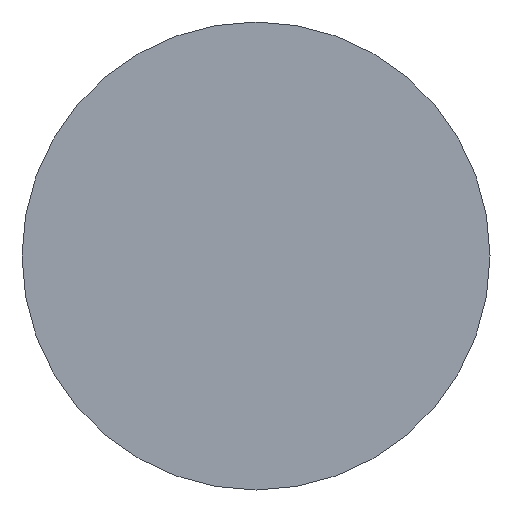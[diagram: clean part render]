
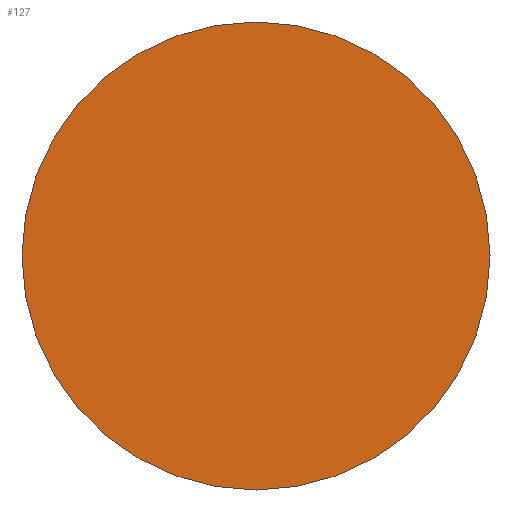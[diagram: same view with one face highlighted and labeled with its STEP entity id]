
A CAD part, front view. The second image highlights one B-rep face of the part: STEP entity #127.
In plain terms, the highlighted planar face has unit normal (0, -1, 0).
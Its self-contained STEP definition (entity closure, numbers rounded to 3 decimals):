
#1 = AXIS2_PLACEMENT_3D ( 'NONE', #68, #97, #70 ) ;
#9 = ORIENTED_EDGE ( 'NONE', *, *, #128, .F. ) ;
#24 = CIRCLE ( 'NONE', #161, 2.5 ) ;
#27 = VERTEX_POINT ( 'NONE', #95 ) ;
#39 = FACE_OUTER_BOUND ( 'NONE', #99, .T. ) ;
#47 = CARTESIAN_POINT ( 'NONE',  ( 0., -7., -2.5 ) ) ;
#49 = DIRECTION ( 'NONE',  ( 0., 1., 0. ) ) ;
#68 = CARTESIAN_POINT ( 'NONE',  ( 0., -7., 0. ) ) ;
#69 = VERTEX_POINT ( 'NONE', #47 ) ;
#70 = DIRECTION ( 'NONE',  ( 0., 0., 1. ) ) ;
#88 = CARTESIAN_POINT ( 'NONE',  ( 0., -7., 0. ) ) ;
#89 = DIRECTION ( 'NONE',  ( 0., 0., 1. ) ) ;
#94 = CIRCLE ( 'NONE', #166, 2.5 ) ;
#95 = CARTESIAN_POINT ( 'NONE',  ( 0., -7., 2.5 ) ) ;
#97 = DIRECTION ( 'NONE',  ( 0., 1., 0. ) ) ;
#99 = EDGE_LOOP ( 'NONE', ( #9, #122 ) ) ;
#115 = EDGE_CURVE ( 'NONE', #27, #69, #94, .T. ) ;
#120 = DIRECTION ( 'NONE',  ( 0., 1., 0. ) ) ;
#122 = ORIENTED_EDGE ( 'NONE', *, *, #115, .F. ) ;
#123 = DIRECTION ( 'NONE',  ( 0., 0., 1. ) ) ;
#127 = ADVANCED_FACE ( 'NONE', ( #39 ), #135, .F. ) ;
#128 = EDGE_CURVE ( 'NONE', #69, #27, #24, .T. ) ;
#135 = PLANE ( 'NONE',  #1 ) ;
#155 = CARTESIAN_POINT ( 'NONE',  ( 0., -7., 0. ) ) ;
#161 = AXIS2_PLACEMENT_3D ( 'NONE', #88, #120, #89 ) ;
#166 = AXIS2_PLACEMENT_3D ( 'NONE', #155, #49, #123 ) ;
